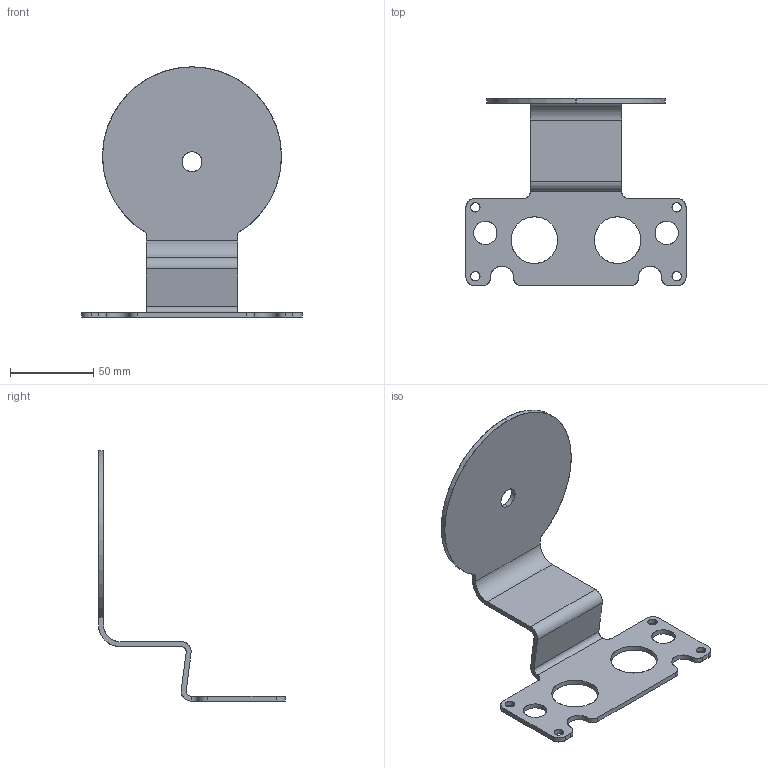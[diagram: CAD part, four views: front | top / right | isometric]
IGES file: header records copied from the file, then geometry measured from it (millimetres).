
Start section: OSMC1.0    IGES FILE using analytic representation for surfaces
Global section: file name: D:\OMRON\OS32C_BKT4.igs; native system: SolidWorks 2001Plus by SolidWorks Corporation; preprocessor: Version 5.3; author: yamanouchi; date: 110801.140159; units: millimetre
Bounding box: 132.4 x 112.4 x 150.4 mm (x, y, z)
Surface area: 42082.3 mm2 (no closed solid volume)
Topology: 0 solids, 0 shells, 59 faces, 1418 edges, 1418 vertices
Faces by surface type: revolution 38, bspline 21
